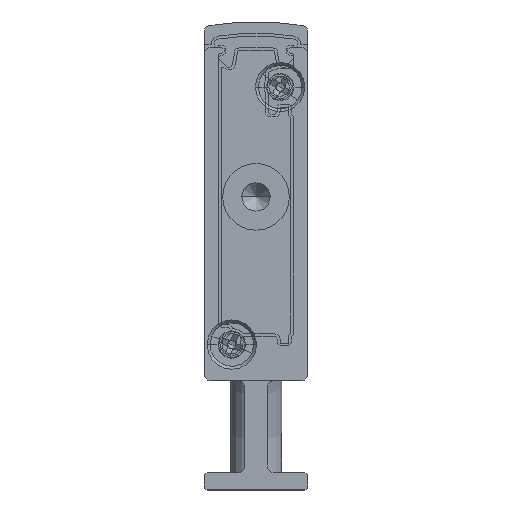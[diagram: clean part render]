
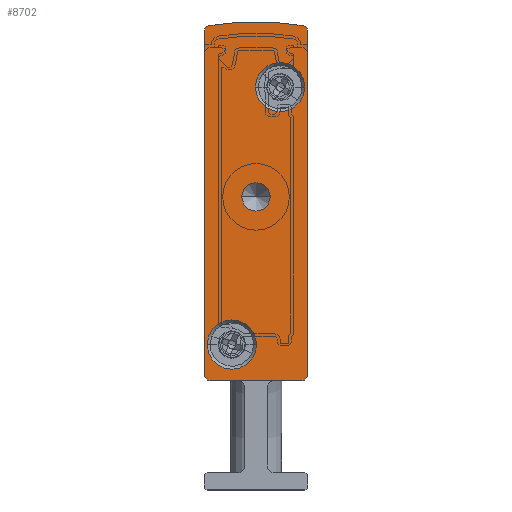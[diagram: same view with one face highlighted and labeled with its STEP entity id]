
A CAD part, front view. The second image highlights one B-rep face of the part: STEP entity #8702.
In plain terms, the highlighted planar face has unit normal (0, -1, 0).
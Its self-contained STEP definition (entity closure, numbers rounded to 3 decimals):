
#81 = EDGE_CURVE ( 'NONE', #2077, #6044, #17920, .T. ) ;
#166 = EDGE_CURVE ( 'NONE', #16235, #17390, #7262, .T. ) ;
#199 = EDGE_CURVE ( 'NONE', #16236, #16235, #2278, .T. ) ;
#211 = ORIENTED_EDGE ( 'NONE', *, *, #1024, .F. ) ;
#252 = AXIS2_PLACEMENT_3D ( 'NONE', #12002, #4506, #15058 ) ;
#319 = CARTESIAN_POINT ( 'NONE',  ( 8.75, -2.5, 35.05 ) ) ;
#666 = AXIS2_PLACEMENT_3D ( 'NONE', #1690, #19679, #1561 ) ;
#779 = PLANE ( 'NONE',  #19396 ) ;
#982 = CARTESIAN_POINT ( 'NONE',  ( 2.4, -2.5, 12.65 ) ) ;
#1024 = EDGE_CURVE ( 'NONE', #2942, #9646, #8568, .T. ) ;
#1254 = DIRECTION ( 'NONE',  ( 0., 0., 1. ) ) ;
#1261 = VECTOR ( 'NONE', #15739, 1000. ) ;
#1289 = EDGE_CURVE ( 'NONE', #17693, #4662, #5992, .T. ) ;
#1365 = ORIENTED_EDGE ( 'NONE', *, *, #1289, .T. ) ;
#1488 = CARTESIAN_POINT ( 'NONE',  ( 0.5, -2.5, 10. ) ) ;
#1561 = DIRECTION ( 'NONE',  ( -1., 0., 0. ) ) ;
#1644 = DIRECTION ( 'NONE',  ( 1., 0., 0. ) ) ;
#1651 = ORIENTED_EDGE ( 'NONE', *, *, #199, .F. ) ;
#1690 = CARTESIAN_POINT ( 'NONE',  ( 8.5, -2.5, 39.902 ) ) ;
#1837 = EDGE_CURVE ( 'NONE', #3225, #16236, #5120, .T. ) ;
#2077 = VERTEX_POINT ( 'NONE', #8484 ) ;
#2264 = CARTESIAN_POINT ( 'NONE',  ( 5.75, -2.5, 25.5 ) ) ;
#2278 = LINE ( 'NONE', #10299, #15763 ) ;
#2299 = CIRCLE ( 'NONE', #13825, 1.25 ) ;
#2747 = ORIENTED_EDGE ( 'NONE', *, *, #11190, .F. ) ;
#2942 = VERTEX_POINT ( 'NONE', #9420 ) ;
#3005 = DIRECTION ( 'NONE',  ( 0., 1., 0. ) ) ;
#3038 = EDGE_LOOP ( 'NONE', ( #5754, #1651, #16448, #9167, #2747, #211, #7083, #12007 ) ) ;
#3097 = AXIS2_PLACEMENT_3D ( 'NONE', #9212, #6249, #9275 ) ;
#3225 = VERTEX_POINT ( 'NONE', #13294 ) ;
#3436 = EDGE_CURVE ( 'NONE', #17390, #10565, #13501, .T. ) ;
#3577 = LINE ( 'NONE', #15056, #9502 ) ;
#3610 = CARTESIAN_POINT ( 'NONE',  ( 8.592, -2.5, 40.393 ) ) ;
#3685 = CARTESIAN_POINT ( 'NONE',  ( 0., -2.5, 10. ) ) ;
#3704 = CARTESIAN_POINT ( 'NONE',  ( 9., -2.5, 39.902 ) ) ;
#4010 = EDGE_LOOP ( 'NONE', ( #10994, #18681 ) ) ;
#4428 = DIRECTION ( 'NONE',  ( -1., 0., 0. ) ) ;
#4506 = DIRECTION ( 'NONE',  ( 0., 1., 0. ) ) ;
#4662 = VERTEX_POINT ( 'NONE', #19576 ) ;
#4670 = CARTESIAN_POINT ( 'NONE',  ( 2.4, -2.5, 12.65 ) ) ;
#5120 = CIRCLE ( 'NONE', #10537, 0.5 ) ;
#5305 = DIRECTION ( 'NONE',  ( 0., -1., 0. ) ) ;
#5606 = DIRECTION ( 'NONE',  ( -1., 0., 0. ) ) ;
#5754 = ORIENTED_EDGE ( 'NONE', *, *, #166, .F. ) ;
#5833 = FACE_OUTER_BOUND ( 'NONE', #3038, .T. ) ;
#5947 = CARTESIAN_POINT ( 'NONE',  ( 0.5, -2.5, 39.902 ) ) ;
#5955 = EDGE_LOOP ( 'NONE', ( #6472, #16026 ) ) ;
#5992 = CIRCLE ( 'NONE', #252, 1.25 ) ;
#6004 = CARTESIAN_POINT ( 'NONE',  ( 8.5, -2.5, 9.5 ) ) ;
#6012 = CARTESIAN_POINT ( 'NONE',  ( 0.408, -2.5, 40.393 ) ) ;
#6044 = VERTEX_POINT ( 'NONE', #8640 ) ;
#6249 = DIRECTION ( 'NONE',  ( 0., 1., 0. ) ) ;
#6472 = ORIENTED_EDGE ( 'NONE', *, *, #8220, .F. ) ;
#6666 = AXIS2_PLACEMENT_3D ( 'NONE', #6703, #12752, #8301 ) ;
#6703 = CARTESIAN_POINT ( 'NONE',  ( 8.5, -2.5, 10. ) ) ;
#6750 = DIRECTION ( 'NONE',  ( 1., 0., 0. ) ) ;
#6809 = ORIENTED_EDGE ( 'NONE', *, *, #13304, .T. ) ;
#6827 = CIRCLE ( 'NONE', #13456, 2.15 ) ;
#7083 = ORIENTED_EDGE ( 'NONE', *, *, #11786, .F. ) ;
#7262 = CIRCLE ( 'NONE', #10700, 0.5 ) ;
#7553 = EDGE_LOOP ( 'NONE', ( #6809, #1365 ) ) ;
#7566 = VERTEX_POINT ( 'NONE', #6004 ) ;
#7597 = DIRECTION ( 'NONE',  ( -1., 0., 0. ) ) ;
#8078 = DIRECTION ( 'NONE',  ( 1., 0., 0. ) ) ;
#8220 = EDGE_CURVE ( 'NONE', #14843, #12465, #6827, .T. ) ;
#8301 = DIRECTION ( 'NONE',  ( -1., 0., 0. ) ) ;
#8484 = CARTESIAN_POINT ( 'NONE',  ( 0.25, -2.5, 12.65 ) ) ;
#8568 = LINE ( 'NONE', #3704, #1261 ) ;
#8640 = CARTESIAN_POINT ( 'NONE',  ( 4.55, -2.5, 12.65 ) ) ;
#8702 = ADVANCED_FACE ( 'NONE', ( #15502, #11455, #5833, #17380 ), #779, .F. ) ;
#8980 = CIRCLE ( 'NONE', #16952, 2.15 ) ;
#9167 = ORIENTED_EDGE ( 'NONE', *, *, #16892, .F. ) ;
#9212 = CARTESIAN_POINT ( 'NONE',  ( 4.5, -2.5, 17.092 ) ) ;
#9275 = DIRECTION ( 'NONE',  ( -1., 0., 0. ) ) ;
#9420 = CARTESIAN_POINT ( 'NONE',  ( 9., -2.5, 39.902 ) ) ;
#9502 = VECTOR ( 'NONE', #4428, 1000. ) ;
#9646 = VERTEX_POINT ( 'NONE', #18985 ) ;
#9942 = CIRCLE ( 'NONE', #12042, 2.15 ) ;
#10299 = CARTESIAN_POINT ( 'NONE',  ( 0., -2.5, 39.902 ) ) ;
#10537 = AXIS2_PLACEMENT_3D ( 'NONE', #1488, #3005, #16673 ) ;
#10565 = VERTEX_POINT ( 'NONE', #3610 ) ;
#10700 = AXIS2_PLACEMENT_3D ( 'NONE', #5947, #17986, #7597 ) ;
#10994 = ORIENTED_EDGE ( 'NONE', *, *, #14746, .F. ) ;
#11190 = EDGE_CURVE ( 'NONE', #9646, #7566, #11496, .T. ) ;
#11278 = CARTESIAN_POINT ( 'NONE',  ( 0., -2.5, 39.902 ) ) ;
#11455 = FACE_BOUND ( 'NONE', #4010, .T. ) ;
#11496 = CIRCLE ( 'NONE', #6666, 0.5 ) ;
#11581 = CIRCLE ( 'NONE', #666, 0.5 ) ;
#11588 = DIRECTION ( 'NONE',  ( 0., 1., 0. ) ) ;
#11786 = EDGE_CURVE ( 'NONE', #10565, #2942, #11581, .T. ) ;
#12002 = CARTESIAN_POINT ( 'NONE',  ( 4.5, -2.5, 25.5 ) ) ;
#12007 = ORIENTED_EDGE ( 'NONE', *, *, #3436, .F. ) ;
#12042 = AXIS2_PLACEMENT_3D ( 'NONE', #12926, #5305, #6750 ) ;
#12324 = AXIS2_PLACEMENT_3D ( 'NONE', #982, #13044, #14575 ) ;
#12465 = VERTEX_POINT ( 'NONE', #16989 ) ;
#12527 = CARTESIAN_POINT ( 'NONE',  ( 6.6, -2.5, 35.05 ) ) ;
#12567 = EDGE_CURVE ( 'NONE', #12465, #14843, #9942, .T. ) ;
#12709 = DIRECTION ( 'NONE',  ( 0., 1., 0. ) ) ;
#12752 = DIRECTION ( 'NONE',  ( 0., 1., 0. ) ) ;
#12842 = CARTESIAN_POINT ( 'NONE',  ( 0.5, -2.5, 39.902 ) ) ;
#12926 = CARTESIAN_POINT ( 'NONE',  ( 6.6, -2.5, 35.05 ) ) ;
#13044 = DIRECTION ( 'NONE',  ( 0., -1., 0. ) ) ;
#13294 = CARTESIAN_POINT ( 'NONE',  ( 0.5, -2.5, 9.5 ) ) ;
#13304 = EDGE_CURVE ( 'NONE', #4662, #17693, #2299, .T. ) ;
#13456 = AXIS2_PLACEMENT_3D ( 'NONE', #12527, #13996, #8078 ) ;
#13501 = CIRCLE ( 'NONE', #3097, 23.658 ) ;
#13825 = AXIS2_PLACEMENT_3D ( 'NONE', #19420, #11588, #5606 ) ;
#13996 = DIRECTION ( 'NONE',  ( 0., -1., 0. ) ) ;
#14575 = DIRECTION ( 'NONE',  ( 1., 0., 0. ) ) ;
#14746 = EDGE_CURVE ( 'NONE', #6044, #2077, #8980, .T. ) ;
#14843 = VERTEX_POINT ( 'NONE', #319 ) ;
#15056 = CARTESIAN_POINT ( 'NONE',  ( 0.5, -2.5, 9.5 ) ) ;
#15058 = DIRECTION ( 'NONE',  ( -1., 0., 0. ) ) ;
#15502 = FACE_BOUND ( 'NONE', #5955, .T. ) ;
#15739 = DIRECTION ( 'NONE',  ( 0., 0., -1. ) ) ;
#15763 = VECTOR ( 'NONE', #1254, 1000. ) ;
#16026 = ORIENTED_EDGE ( 'NONE', *, *, #12567, .F. ) ;
#16235 = VERTEX_POINT ( 'NONE', #11278 ) ;
#16236 = VERTEX_POINT ( 'NONE', #3685 ) ;
#16448 = ORIENTED_EDGE ( 'NONE', *, *, #1837, .F. ) ;
#16673 = DIRECTION ( 'NONE',  ( -1., 0., 0. ) ) ;
#16825 = DIRECTION ( 'NONE',  ( 0., -1., 0. ) ) ;
#16892 = EDGE_CURVE ( 'NONE', #7566, #3225, #3577, .T. ) ;
#16952 = AXIS2_PLACEMENT_3D ( 'NONE', #4670, #16825, #1644 ) ;
#16989 = CARTESIAN_POINT ( 'NONE',  ( 4.45, -2.5, 35.05 ) ) ;
#17155 = DIRECTION ( 'NONE',  ( -1., 0., 0. ) ) ;
#17380 = FACE_BOUND ( 'NONE', #7553, .T. ) ;
#17390 = VERTEX_POINT ( 'NONE', #6012 ) ;
#17693 = VERTEX_POINT ( 'NONE', #2264 ) ;
#17920 = CIRCLE ( 'NONE', #12324, 2.15 ) ;
#17986 = DIRECTION ( 'NONE',  ( 0., 1., 0. ) ) ;
#18681 = ORIENTED_EDGE ( 'NONE', *, *, #81, .F. ) ;
#18985 = CARTESIAN_POINT ( 'NONE',  ( 9., -2.5, 10. ) ) ;
#19396 = AXIS2_PLACEMENT_3D ( 'NONE', #12842, #12709, #17155 ) ;
#19420 = CARTESIAN_POINT ( 'NONE',  ( 4.5, -2.5, 25.5 ) ) ;
#19576 = CARTESIAN_POINT ( 'NONE',  ( 3.25, -2.5, 25.5 ) ) ;
#19679 = DIRECTION ( 'NONE',  ( 0., 1., 0. ) ) ;
